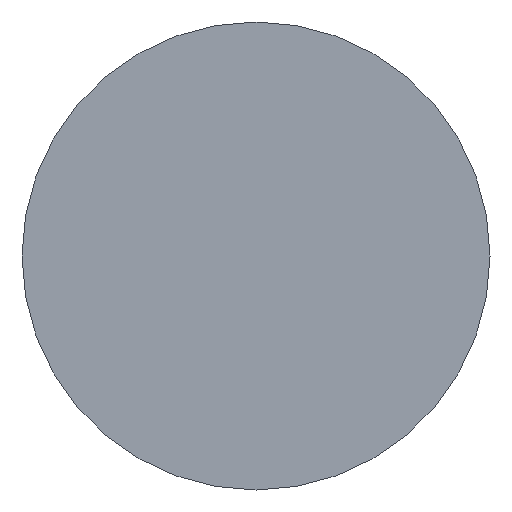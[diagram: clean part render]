
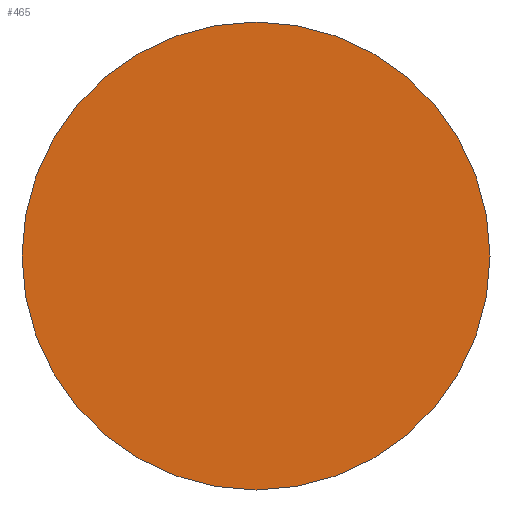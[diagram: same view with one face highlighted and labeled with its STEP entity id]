
A CAD part, front view. The second image highlights one B-rep face of the part: STEP entity #465.
In plain terms, the highlighted planar face has unit normal (0, -1, 0).
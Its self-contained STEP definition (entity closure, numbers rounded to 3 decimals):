
#306 = CYLINDRICAL_SURFACE('',#307,8.);
#307 = AXIS2_PLACEMENT_3D('',#308,#309,#310);
#308 = CARTESIAN_POINT('',(75.,-98.,-155.5));
#309 = DIRECTION('',(0.,-1.,-0.));
#310 = DIRECTION('',(1.,0.,0.));
#360 = VERTEX_POINT('',#361);
#361 = CARTESIAN_POINT('',(83.,-98.,-155.5));
#384 = EDGE_CURVE('',#360,#360,#385,.T.);
#385 = SURFACE_CURVE('',#386,(#391,#398),.PCURVE_S1.);
#386 = CIRCLE('',#387,8.);
#387 = AXIS2_PLACEMENT_3D('',#388,#389,#390);
#388 = CARTESIAN_POINT('',(75.,-98.,-155.5));
#389 = DIRECTION('',(-0.,1.,0.));
#390 = DIRECTION('',(1.,0.,0.));
#391 = PCURVE('',#306,#392);
#392 = DEFINITIONAL_REPRESENTATION('',(#393),#397);
#393 = LINE('',#394,#395);
#394 = CARTESIAN_POINT('',(-0.,0.));
#395 = VECTOR('',#396,1.);
#396 = DIRECTION('',(-1.,0.));
#397 = ( GEOMETRIC_REPRESENTATION_CONTEXT(2) 
PARAMETRIC_REPRESENTATION_CONTEXT() REPRESENTATION_CONTEXT('2D SPACE',''
  ) );
#398 = PCURVE('',#399,#404);
#399 = PLANE('',#400);
#400 = AXIS2_PLACEMENT_3D('',#401,#402,#403);
#401 = CARTESIAN_POINT('',(75.,-98.,-155.5));
#402 = DIRECTION('',(0.,1.,0.));
#403 = DIRECTION('',(0.,-0.,1.));
#404 = DEFINITIONAL_REPRESENTATION('',(#405),#409);
#405 = CIRCLE('',#406,8.);
#406 = AXIS2_PLACEMENT_2D('',#407,#408);
#407 = CARTESIAN_POINT('',(0.,0.));
#408 = DIRECTION('',(0.,1.));
#409 = ( GEOMETRIC_REPRESENTATION_CONTEXT(2) 
PARAMETRIC_REPRESENTATION_CONTEXT() REPRESENTATION_CONTEXT('2D SPACE',''
  ) );
#465 = ADVANCED_FACE('',(#466),#399,.F.);
#466 = FACE_BOUND('',#467,.F.);
#467 = EDGE_LOOP('',(#468));
#468 = ORIENTED_EDGE('',*,*,#384,.T.);
